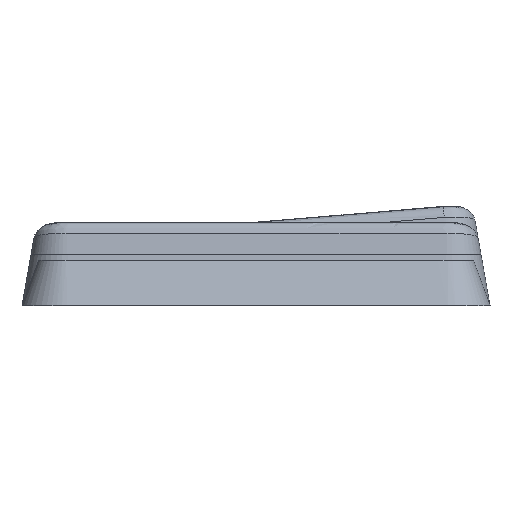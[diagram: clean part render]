
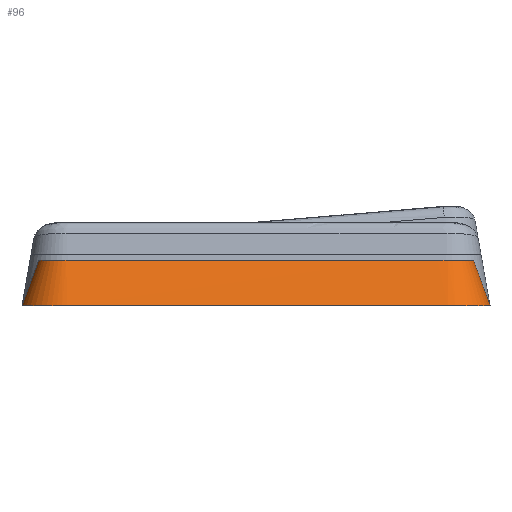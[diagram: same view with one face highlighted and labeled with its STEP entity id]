
A CAD part, left-side view. The second image highlights one B-rep face of the part: STEP entity #96.
In plain terms, the highlighted free-form (B-spline) face has degree [2, 1] with [9, 2] control points.
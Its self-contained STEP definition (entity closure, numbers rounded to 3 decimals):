
#96=ADVANCED_FACE($,(#373),#3155,.T.);
#373=FACE_OUTER_BOUND($,#653,.T.);
#653=EDGE_LOOP($,(#1161,#1162,#1163,#1164));
#1161=ORIENTED_EDGE($,*,*,#2270,.T.);
#1162=ORIENTED_EDGE($,*,*,#2129,.F.);
#1163=ORIENTED_EDGE($,*,*,#2266,.F.);
#1164=ORIENTED_EDGE($,*,*,#2272,.F.);
#2129=EDGE_CURVE($,#2755,#2839,#3778,.T.);
#2266=EDGE_CURVE($,#2756,#2755,#3827,.T.);
#2270=EDGE_CURVE($,#2838,#2839,#3830,.T.);
#2272=EDGE_CURVE($,#2838,#2756,#3832,.T.);
#2755=VERTEX_POINT($,#5072);
#2756=VERTEX_POINT($,#5073);
#2838=VERTEX_POINT($,#5155);
#2839=VERTEX_POINT($,#5156);
#3155=(
BOUNDED_SURFACE()
B_SPLINE_SURFACE(2,1,((#5054,#5055),(#5056,#5057),(#5058,#5059),(#5060,#5061),
(#5062,#5063),(#5064,#5065),(#5066,#5067),(#5068,#5069),(#5070,#5071)),.UNSPECIFIED.,
.F.,.F.,.F.)
B_SPLINE_SURFACE_WITH_KNOTS((3,2,2,2,3),(2,2),(51.425,54.566,
68.566,71.708,85.708),(0.,1.809),
.UNSPECIFIED.)
GEOMETRIC_REPRESENTATION_ITEM()
RATIONAL_B_SPLINE_SURFACE(((1.,1.),(0.707,0.707),
(1.,1.),(1.,1.),(1.,1.),(0.707,0.707),(1.,1.),(1.,
1.),(1.,1.)))
REPRESENTATION_ITEM($)
SURFACE()
);
#3778=(
BOUNDED_CURVE()
B_SPLINE_CURVE(2,(#4320,#4321,#4322,#4323,#4324,#4325,#4326,#4327,#4328),
.UNSPECIFIED.,.F.,.F.)
B_SPLINE_CURVE_WITH_KNOTS((3,2,2,2,3),(51.425,54.566,
68.566,71.708,85.708),.UNSPECIFIED.)
CURVE()
GEOMETRIC_REPRESENTATION_ITEM()
RATIONAL_B_SPLINE_CURVE((1.,0.707,1.,1.,1.,0.707,
1.,1.,1.))
REPRESENTATION_ITEM($)
);
#3827=(
BOUNDED_CURVE()
B_SPLINE_CURVE(1,(#4751,#4752),.UNSPECIFIED.,.F.,.F.)
B_SPLINE_CURVE_WITH_KNOTS((2,2),(0.,1.809),.UNSPECIFIED.)
CURVE()
GEOMETRIC_REPRESENTATION_ITEM()
RATIONAL_B_SPLINE_CURVE((1.,1.))
REPRESENTATION_ITEM($)
);
#3830=(
BOUNDED_CURVE()
B_SPLINE_CURVE(1,(#4765,#4766),.UNSPECIFIED.,.F.,.F.)
B_SPLINE_CURVE_WITH_KNOTS((2,2),(0.,1.809),.UNSPECIFIED.)
CURVE()
GEOMETRIC_REPRESENTATION_ITEM()
RATIONAL_B_SPLINE_CURVE((1.,1.))
REPRESENTATION_ITEM($)
);
#3832=(
BOUNDED_CURVE()
B_SPLINE_CURVE(2,(#4776,#4777,#4778,#4779,#4780,#4781,#4782,#4783,#4784),
.UNSPECIFIED.,.F.,.F.)
B_SPLINE_CURVE_WITH_KNOTS((3,2,2,2,3),(-85.708,-71.708,
-68.566,-54.566,-51.425),.UNSPECIFIED.)
CURVE()
GEOMETRIC_REPRESENTATION_ITEM()
RATIONAL_B_SPLINE_CURVE((1.,1.,1.,0.707,1.,1.,1.,0.707,
1.))
REPRESENTATION_ITEM($)
);
#4320=CARTESIAN_POINT($,(63.,-41.919,3.5));
#4321=CARTESIAN_POINT($,(61.919,-41.919,3.5));
#4322=CARTESIAN_POINT($,(61.919,-43.,3.5));
#4323=CARTESIAN_POINT($,(61.919,-50.,3.5));
#4324=CARTESIAN_POINT($,(61.919,-57.,3.5));
#4325=CARTESIAN_POINT($,(61.919,-58.081,3.5));
#4326=CARTESIAN_POINT($,(63.,-58.081,3.5));
#4327=CARTESIAN_POINT($,(70.,-58.081,3.5));
#4328=CARTESIAN_POINT($,(77.,-58.081,3.5));
#4751=CARTESIAN_POINT($,(63.,-41.3,1.8));
#4752=CARTESIAN_POINT($,(63.,-41.919,3.5));
#4765=CARTESIAN_POINT($,(77.,-58.7,1.8));
#4766=CARTESIAN_POINT($,(77.,-58.081,3.5));
#4776=CARTESIAN_POINT($,(77.,-58.7,1.8));
#4777=CARTESIAN_POINT($,(70.,-58.7,1.8));
#4778=CARTESIAN_POINT($,(63.,-58.7,1.8));
#4779=CARTESIAN_POINT($,(61.3,-58.7,1.8));
#4780=CARTESIAN_POINT($,(61.3,-57.,1.8));
#4781=CARTESIAN_POINT($,(61.3,-50.,1.8));
#4782=CARTESIAN_POINT($,(61.3,-43.,1.8));
#4783=CARTESIAN_POINT($,(61.3,-41.3,1.8));
#4784=CARTESIAN_POINT($,(63.,-41.3,1.8));
#5054=CARTESIAN_POINT($,(63.,-41.3,1.8));
#5055=CARTESIAN_POINT($,(63.,-41.919,3.5));
#5056=CARTESIAN_POINT($,(61.3,-41.3,1.8));
#5057=CARTESIAN_POINT($,(61.919,-41.919,3.5));
#5058=CARTESIAN_POINT($,(61.3,-43.,1.8));
#5059=CARTESIAN_POINT($,(61.919,-43.,3.5));
#5060=CARTESIAN_POINT($,(61.3,-50.,1.8));
#5061=CARTESIAN_POINT($,(61.919,-50.,3.5));
#5062=CARTESIAN_POINT($,(61.3,-57.,1.8));
#5063=CARTESIAN_POINT($,(61.919,-57.,3.5));
#5064=CARTESIAN_POINT($,(61.3,-58.7,1.8));
#5065=CARTESIAN_POINT($,(61.919,-58.081,3.5));
#5066=CARTESIAN_POINT($,(63.,-58.7,1.8));
#5067=CARTESIAN_POINT($,(63.,-58.081,3.5));
#5068=CARTESIAN_POINT($,(70.,-58.7,1.8));
#5069=CARTESIAN_POINT($,(70.,-58.081,3.5));
#5070=CARTESIAN_POINT($,(77.,-58.7,1.8));
#5071=CARTESIAN_POINT($,(77.,-58.081,3.5));
#5072=CARTESIAN_POINT($,(63.,-41.919,3.5));
#5073=CARTESIAN_POINT($,(63.,-41.3,1.8));
#5155=CARTESIAN_POINT($,(77.,-58.7,1.8));
#5156=CARTESIAN_POINT($,(77.,-58.081,3.5));
